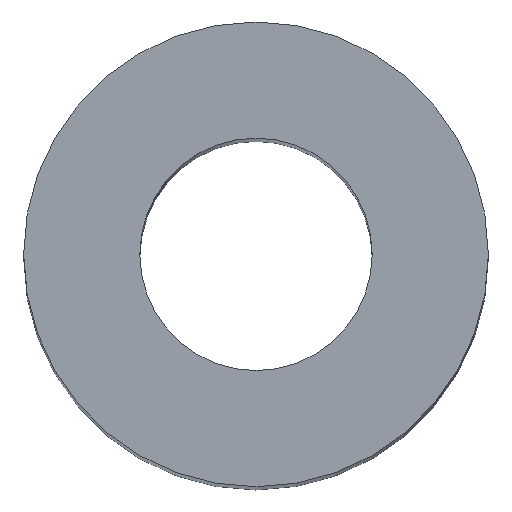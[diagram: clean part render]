
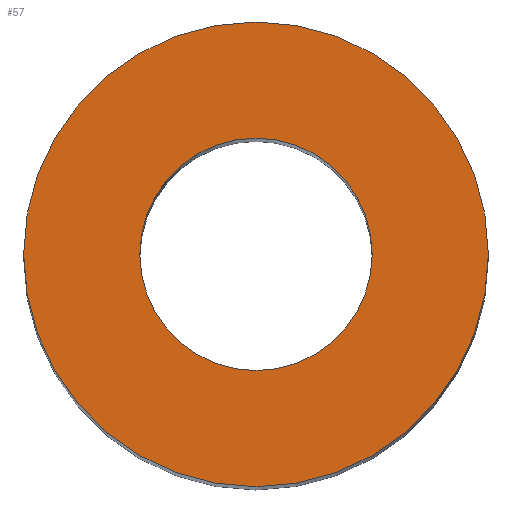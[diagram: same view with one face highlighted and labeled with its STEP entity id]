
A CAD part, top view. The second image highlights one B-rep face of the part: STEP entity #57.
In plain terms, the highlighted planar face has unit normal (0, 0, 1).
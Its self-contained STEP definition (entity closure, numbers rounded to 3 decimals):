
#3 = CARTESIAN_POINT ( 'NONE',  ( 0., 0., 203. ) ) ;
#18 = ORIENTED_EDGE ( 'NONE', *, *, #195, .T. ) ;
#22 = AXIS2_PLACEMENT_3D ( 'NONE', #190, #122, #104 ) ;
#24 = DIRECTION ( 'NONE',  ( 0., 0., 1. ) ) ;
#27 = DIRECTION ( 'NONE',  ( 0., 0., 1. ) ) ;
#32 = PLANE ( 'NONE',  #125 ) ;
#33 = ORIENTED_EDGE ( 'NONE', *, *, #55, .T. ) ;
#38 = EDGE_CURVE ( 'NONE', #163, #103, #90, .T. ) ;
#50 = FACE_BOUND ( 'NONE', #111, .T. ) ;
#53 = FACE_OUTER_BOUND ( 'NONE', #101, .T. ) ;
#55 = EDGE_CURVE ( 'NONE', #167, #96, #78, .T. ) ;
#57 = ADVANCED_FACE ( 'NONE', ( #53, #50 ), #32, .T. ) ;
#68 = CARTESIAN_POINT ( 'NONE',  ( 0., 0., 203. ) ) ;
#74 = CARTESIAN_POINT ( 'NONE',  ( 25., 0., 203. ) ) ;
#77 = DIRECTION ( 'NONE',  ( 1., 0., 0. ) ) ;
#78 = CIRCLE ( 'NONE', #164, 25. ) ;
#82 = CIRCLE ( 'NONE', #22, 12.5 ) ;
#90 = CIRCLE ( 'NONE', #197, 12.5 ) ;
#94 = DIRECTION ( 'NONE',  ( 1., 0., 0. ) ) ;
#96 = VERTEX_POINT ( 'NONE', #74 ) ;
#101 = EDGE_LOOP ( 'NONE', ( #33, #18 ) ) ;
#103 = VERTEX_POINT ( 'NONE', #202 ) ;
#104 = DIRECTION ( 'NONE',  ( 1., 0., 0. ) ) ;
#111 = EDGE_LOOP ( 'NONE', ( #171, #131 ) ) ;
#122 = DIRECTION ( 'NONE',  ( 0., 0., 1. ) ) ;
#125 = AXIS2_PLACEMENT_3D ( 'NONE', #156, #27, #77 ) ;
#131 = ORIENTED_EDGE ( 'NONE', *, *, #150, .F. ) ;
#145 = DIRECTION ( 'NONE',  ( 1., 0., 0. ) ) ;
#150 = EDGE_CURVE ( 'NONE', #103, #163, #82, .T. ) ;
#156 = CARTESIAN_POINT ( 'NONE',  ( 0., 0., 203. ) ) ;
#159 = DIRECTION ( 'NONE',  ( 1., 0., 0. ) ) ;
#163 = VERTEX_POINT ( 'NONE', #183 ) ;
#164 = AXIS2_PLACEMENT_3D ( 'NONE', #3, #189, #94 ) ;
#167 = VERTEX_POINT ( 'NONE', #172 ) ;
#169 = DIRECTION ( 'NONE',  ( 0., 0., 1. ) ) ;
#171 = ORIENTED_EDGE ( 'NONE', *, *, #38, .F. ) ;
#172 = CARTESIAN_POINT ( 'NONE',  ( -25., 0., 203. ) ) ;
#183 = CARTESIAN_POINT ( 'NONE',  ( -12.5, 0., 203. ) ) ;
#184 = CARTESIAN_POINT ( 'NONE',  ( 0., 0., 203. ) ) ;
#187 = CIRCLE ( 'NONE', #210, 25. ) ;
#189 = DIRECTION ( 'NONE',  ( 0., 0., 1. ) ) ;
#190 = CARTESIAN_POINT ( 'NONE',  ( 0., 0., 203. ) ) ;
#195 = EDGE_CURVE ( 'NONE', #96, #167, #187, .T. ) ;
#197 = AXIS2_PLACEMENT_3D ( 'NONE', #184, #169, #159 ) ;
#202 = CARTESIAN_POINT ( 'NONE',  ( 12.5, 0., 203. ) ) ;
#210 = AXIS2_PLACEMENT_3D ( 'NONE', #68, #24, #145 ) ;
